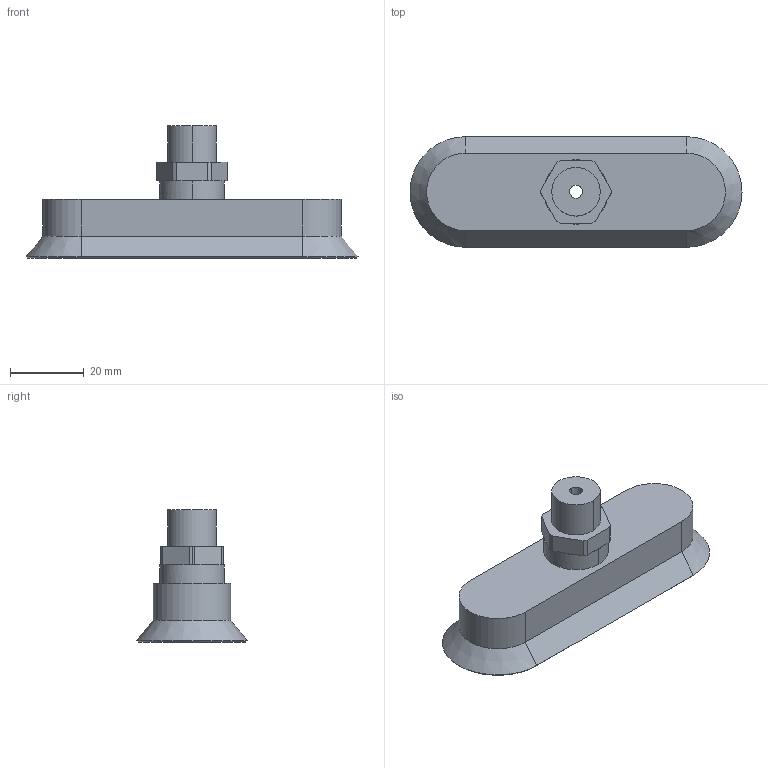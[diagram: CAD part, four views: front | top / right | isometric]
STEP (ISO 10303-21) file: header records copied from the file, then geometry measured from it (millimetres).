
FILE_DESCRIPTION(('STEP AP214'),'1');
FILE_NAME('10_01_05_00092.stp','2021-01-28T16:52:10',('TraceParts'),('TraceParts S.A.'),'Spatial InterOp 3D',' ',' ');
FILE_SCHEMA(('AUTOMOTIVE_DESIGN { 1 0 10303 214 1 1 1 1 }'));
Length unit declared in the file: millimetre
Products named in the file (1): 10_01_05_00092
Bounding box: 90 x 30 x 36 mm (x, y, z)
Volume: 26167.9 mm3; surface area: 9240 mm2
Topology: 1 solids, 4 shells, 79 faces, 178 edges, 110 vertices
Faces by surface type: plane 43, cylinder 28, cone 8
Entity records: 2867 total; most frequent: DIRECTION 414, CARTESIAN_POINT 368, ORIENTED_EDGE 356, EDGE_CURVE 178, AXIS2_PLACEMENT_3D 156, VERTEX_POINT 110, LINE 102, VECTOR 102
